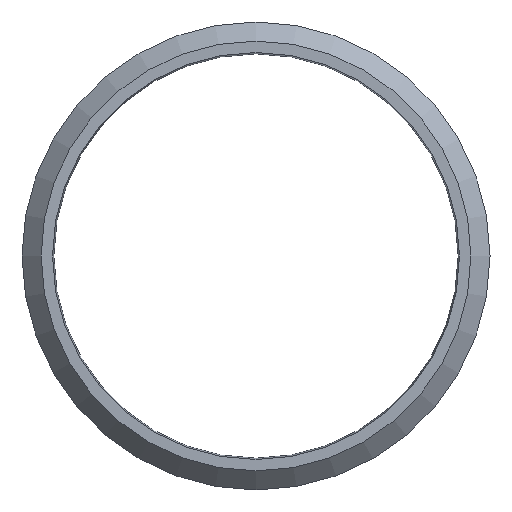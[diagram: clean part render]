
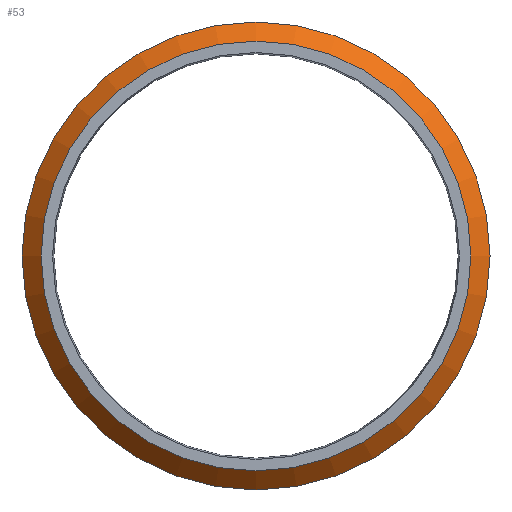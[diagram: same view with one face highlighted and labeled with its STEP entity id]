
A CAD part, left-side view. The second image highlights one B-rep face of the part: STEP entity #53.
In plain terms, the highlighted conical face has half-angle 45 degrees and reference radius 21.1 mm.
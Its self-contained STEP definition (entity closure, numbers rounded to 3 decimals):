
#53 = ADVANCED_FACE( '', ( #114, #115 ), #116, .T. );
#114 = FACE_BOUND( '', #181, .T. );
#115 = FACE_OUTER_BOUND( '', #182, .T. );
#116 = CONICAL_SURFACE( '', #183, 21.1, 0.785 );
#181 = EDGE_LOOP( '', ( #256 ) );
#182 = EDGE_LOOP( '', ( #257 ) );
#183 = AXIS2_PLACEMENT_3D( '', #258, #259, #260 );
#256 = ORIENTED_EDGE( '', *, *, #321, .T. );
#257 = ORIENTED_EDGE( '', *, *, #322, .T. );
#258 = CARTESIAN_POINT( '', ( -7.425, -14.882, 0. ) );
#259 = DIRECTION( '', ( 1., 0., 0. ) );
#260 = DIRECTION( '', ( 0., -1., 0. ) );
#321 = EDGE_CURVE( '', #361, #361, #362, .T. );
#322 = EDGE_CURVE( '', #363, #363, #364, .T. );
#361 = VERTEX_POINT( '', #406 );
#362 = CIRCLE( '', #407, 20.2 );
#363 = VERTEX_POINT( '', #408 );
#364 = CIRCLE( '', #409, 22. );
#406 = CARTESIAN_POINT( '', ( -8.325, -35.082, 0. ) );
#407 = AXIS2_PLACEMENT_3D( '', #453, #454, #455 );
#408 = CARTESIAN_POINT( '', ( -6.525, -36.882, 0. ) );
#409 = AXIS2_PLACEMENT_3D( '', #456, #457, #458 );
#453 = CARTESIAN_POINT( '', ( -8.325, -14.882, 0. ) );
#454 = DIRECTION( '', ( 1., 0., 0. ) );
#455 = DIRECTION( '', ( 0., -1., 0. ) );
#456 = CARTESIAN_POINT( '', ( -6.525, -14.882, 0. ) );
#457 = DIRECTION( '', ( -1., 0., 0. ) );
#458 = DIRECTION( '', ( 0., -1., 0. ) );
